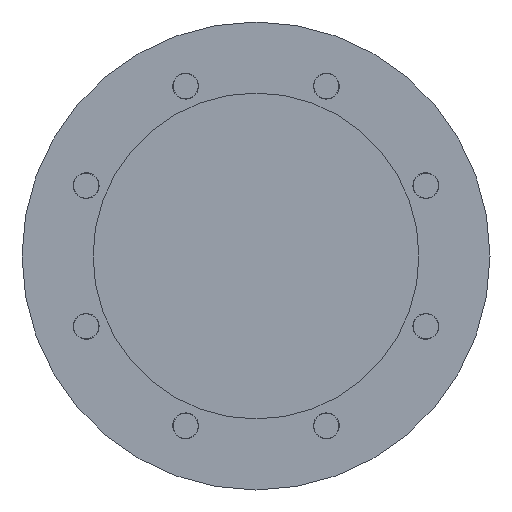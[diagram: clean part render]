
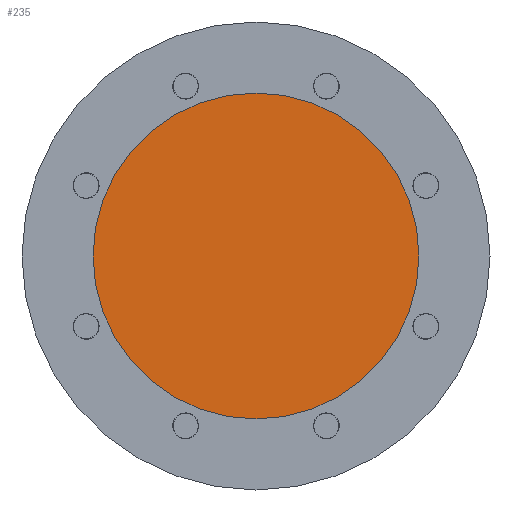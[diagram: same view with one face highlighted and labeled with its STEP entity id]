
A CAD part, front view. The second image highlights one B-rep face of the part: STEP entity #235.
In plain terms, the highlighted planar face has unit normal (0, -1, 0).
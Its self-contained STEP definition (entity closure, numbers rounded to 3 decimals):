
#235 = ADVANCED_FACE( '', ( #586 ), #587, .T. );
#586 = FACE_OUTER_BOUND( '', #959, .T. );
#587 = PLANE( '', #960 );
#959 = EDGE_LOOP( '', ( #2137, #2138 ) );
#960 = AXIS2_PLACEMENT_3D( '', #2139, #2140, #2141 );
#2137 = ORIENTED_EDGE( '', *, *, #2207, .F. );
#2138 = ORIENTED_EDGE( '', *, *, #2558, .F. );
#2139 = CARTESIAN_POINT( '', ( 19.5, -44., 0. ) );
#2140 = DIRECTION( '', ( 0., -1., 0. ) );
#2141 = DIRECTION( '', ( -1., 0., 0. ) );
#2207 = EDGE_CURVE( '', #2570, #2573, #2574, .T. );
#2558 = EDGE_CURVE( '', #2573, #2570, #3158, .T. );
#2570 = VERTEX_POINT( '', #3172 );
#2573 = VERTEX_POINT( '', #3176 );
#2574 = CIRCLE( '', #3177, 39. );
#3158 = CIRCLE( '', #3974, 39. );
#3172 = CARTESIAN_POINT( '', ( 39., -44., 0. ) );
#3176 = CARTESIAN_POINT( '', ( -39., -44., 0. ) );
#3177 = AXIS2_PLACEMENT_3D( '', #3987, #3988, #3989 );
#3974 = AXIS2_PLACEMENT_3D( '', #4614, #4615, #4616 );
#3987 = CARTESIAN_POINT( '', ( 0., -44., 0. ) );
#3988 = DIRECTION( '', ( 0., 1., 0. ) );
#3989 = DIRECTION( '', ( 1., 0., 0. ) );
#4614 = CARTESIAN_POINT( '', ( 0., -44., 0. ) );
#4615 = DIRECTION( '', ( 0., 1., 0. ) );
#4616 = DIRECTION( '', ( 1., 0., 0. ) );
